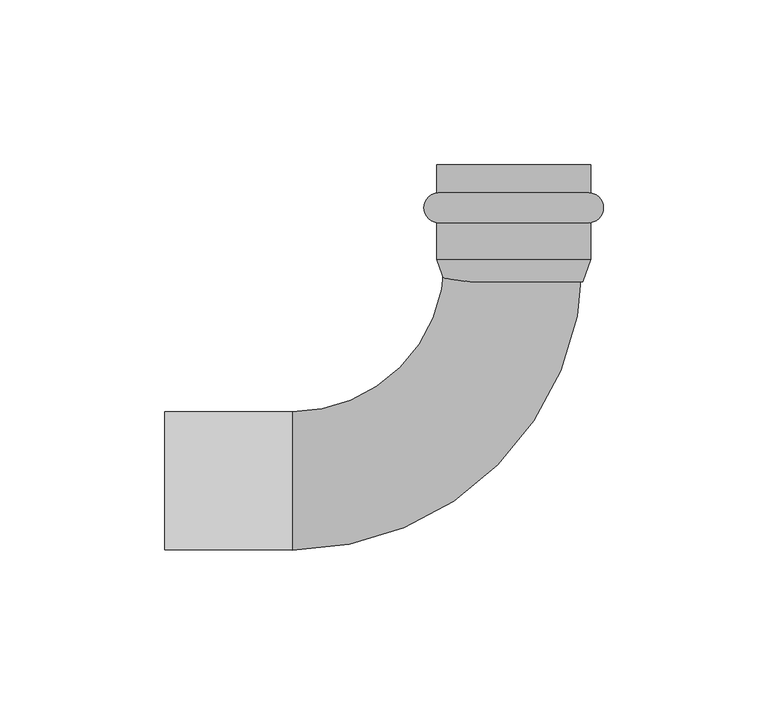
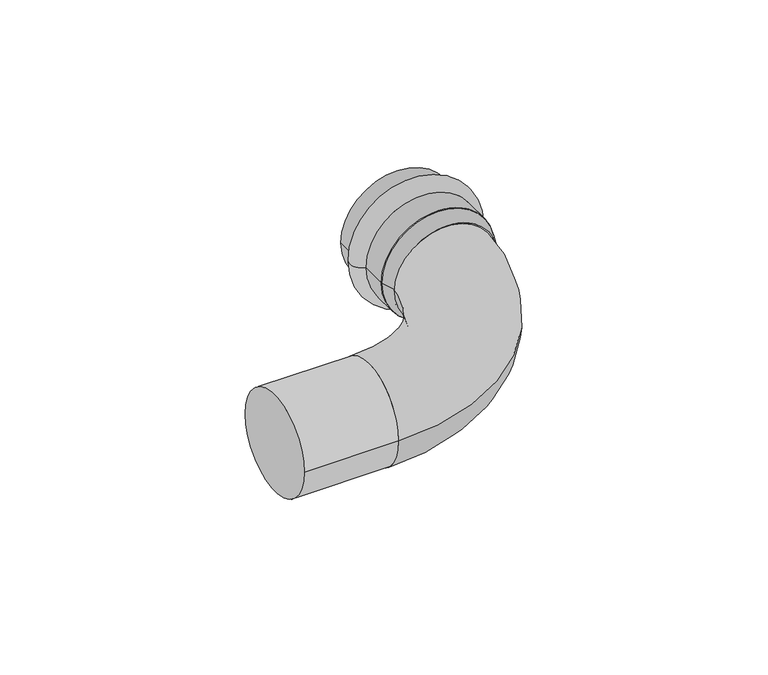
"""IFC4 building model written with IfcOpenShell, lengths in millimetres: pipe fitting geometry, VALTEC_VTi.950.I_Угольник 90° (раструб–труба) нержавеющая сталь : VTi.950.I."""

from ifc_helpers import new_model, si_unit, point, frame, origin, origin_2d, place, context, project, spatial, polyline, circle_curve, ellipse_curve, trimmed, segment, composite_curve, outline, extrude, source, transform, mapped, element, save
from ifc_brep_helpers import plane_surface, cylinder_surface, revolved_surface, advanced_brep


def pipe_fitting_56f49bfb(model_context):
    return source(origin(), model_context, "Body", "SolidModel", [
        advanced_brep(
        [(-23.35, 87.4464272, 0.0), (23.35, 87.4464272, 0.0), (23.35, 78.3535728, 0.0), (-23.35, 78.3535728, 0.0), (-23.35, 96.0, 0.0), (23.35, 96.0, 0.0), (-21.0, 96.0, 0.0), (21.0, 96.0, 0.0), (-21.0, 67.2, 0.0), (21.0, 67.2, 0.0), (-23.35, 67.2, 0.0), (23.35, 67.2, 0.0)],
        [
            (0, 1, circle_curve(frame((0.0, 87.4464272, 0.0), z_axis=(0.0, -1.0, 0.0), x_axis=(1.0, 0.0, 0.0)), 23.35)),
            (1, 2, circle_curve(frame((22.65, 82.9, 0.0), z_axis=(0.0, 0.0, -1.0), x_axis=(0.0, -1.0, 0.0)), 4.6)),
            (2, 3, circle_curve(frame((0.0, 78.3535728, 0.0), z_axis=(0.0, 1.0, 0.0), x_axis=(1.0, 0.0, 0.0)), 23.35)),
            (3, 0, circle_curve(frame((-22.65, 82.9, 0.0), z_axis=(0.0, 0.0, -1.0), x_axis=(0.0, -1.0, 0.0)), 4.6)),
            (1, 0, circle_curve(frame((0.0, 87.4464272, 0.0), z_axis=(0.0, -1.0, 0.0), x_axis=(1.0, 0.0, 0.0)), 23.35)),
            (3, 2, circle_curve(frame((0.0, 78.3535728, 0.0), z_axis=(0.0, 1.0, 0.0), x_axis=(1.0, 0.0, 0.0)), 23.35)),
            (4, 5, circle_curve(frame((0.0, 96.0, 0.0), z_axis=(0.0, -1.0, 0.0), x_axis=(1.0, 0.0, 0.0)), 23.35)),
            (5, 1),
            (0, 4),
            (5, 4, circle_curve(frame((0.0, 96.0, 0.0), z_axis=(0.0, -1.0, 0.0), x_axis=(1.0, 0.0, 0.0)), 23.35)),
            (6, 7, circle_curve(frame((0.0, 96.0, 0.0), z_axis=(0.0, -1.0, 0.0), x_axis=(1.0, 0.0, 0.0)), 21.0)),
            (7, 5),
            (4, 6),
            (7, 6, circle_curve(frame((0.0, 96.0, 0.0), z_axis=(0.0, -1.0, 0.0), x_axis=(1.0, 0.0, 0.0)), 21.0)),
            (8, 9, circle_curve(frame((0.0, 67.2, 0.0), z_axis=(0.0, -1.0, 0.0), x_axis=(1.0, 0.0, 0.0)), 21.0)),
            (9, 7),
            (6, 8),
            (9, 8, circle_curve(frame((0.0, 67.2, 0.0), z_axis=(0.0, -1.0, 0.0), x_axis=(1.0, 0.0, 0.0)), 21.0)),
            (10, 11, circle_curve(frame((0.0, 67.2, 0.0), z_axis=(0.0, -1.0, 0.0), x_axis=(1.0, 0.0, 0.0)), 23.35)),
            (11, 9),
            (8, 10),
            (11, 10, circle_curve(frame((0.0, 67.2, 0.0), z_axis=(0.0, -1.0, 0.0), x_axis=(1.0, 0.0, 0.0)), 23.35)),
            (2, 11),
            (10, 3),
        ],
        [
            revolved_surface(trimmed(ellipse_curve(frame((22.65, 82.9, 0.0), z_axis=(0.0, 0.0, 1.0), x_axis=(0.0, -1.0, 0.0)), 4.6, 4.6), [point((23.35, 78.3535728, 0.0))], [point((23.35, 87.4464272, 0.0))], True, "CARTESIAN"), (0.0, 99.5364426, 0.0), (0.0, 1.0, 0.0)),
            cylinder_surface(frame((0.0, 99.5364426, 0.0), z_axis=(0.0, 1.0, 0.0), x_axis=(1.0, 0.0, 0.0)), 23.35),
            plane_surface(frame((0.0, 96.0, 0.0), z_axis=(0.0, 1.0, 0.0), x_axis=(1.0, 0.0, 0.0))),
            revolved_surface(polyline([(21.0, 96.0, 0.0), (21.0, 67.2, 0.0)]), (0.0, 99.5364426, 0.0), (0.0, 1.0, 0.0)),
            plane_surface(frame((0.0, 67.2, 0.0), z_axis=(0.0, -1.0, 0.0), x_axis=(1.0, 0.0, 0.0))),
        ],
        [
            (0, [[1, 2, 3, 4]]),
            (0, [[5, -4, 6, -2]]),
            (1, [[7, 8, -1, 9]]),
            (1, [[10, -9, -5, -8]]),
            (2, [[11, 12, -7, 13]]),
            (2, [[14, -13, -10, -12]]),
            (3, [[15, 16, -11, 17]]),
            (3, [[18, -17, -14, -16]]),
            (4, [[19, 20, -15, 21]]),
            (4, [[22, -21, -18, -20]]),
            (1, [[-3, 23, -19, 24]]),
            (1, [[-6, -24, -22, -23]]),
        ],
    ),
        extrude(outline(composite_curve([segment(trimmed(circle_curve(origin_2d(), 21.0), [point((-21.0, 0.0))], [point((21.0, 0.0))], False, "CARTESIAN"), True, "CONTINUOUS"), segment(trimmed(circle_curve(origin_2d(), 21.0), [point((21.0, 0.0))], [point((-21.0, 0.0))], False, "CARTESIAN"), True, "CONTINUOUS")], self_intersect=False)), frame((-106.0, 0.0, 0.0), z_axis=(1.0, 0.0, 0.0), x_axis=(0.0, 1.0, 0.0)), (0.0, 0.0, 1.0), 38.8),
        advanced_brep(
        [(-23.35, 67.2, 0.0), (23.35, 67.2, 0.0), (-21.0, 60.48, 0.0), (21.0, 60.48, 0.0)],
        [
            (0, 1, circle_curve(frame((0.0, 67.2, 0.0), z_axis=(0.0, 1.0, 0.0), x_axis=(-1.0, 0.0, 0.0)), 23.35)),
            (1, 0, circle_curve(frame((0.0, 67.2, 0.0), z_axis=(0.0, 1.0, 0.0), x_axis=(1.0, 0.0, 0.0)), 23.35)),
            (2, 3, circle_curve(frame((0.0, 60.48, 0.0), z_axis=(0.0, -1.0, 0.0), x_axis=(1.0, 0.0, 0.0)), 21.0)),
            (3, 2, circle_curve(frame((0.0, 60.48, 0.0), z_axis=(0.0, -1.0, 0.0), x_axis=(-1.0, 0.0, 0.0)), 21.0)),
            (2, 0),
            (1, 3),
        ],
        [
            plane_surface(frame((0.0, 67.2, 0.0), z_axis=(0.0, 1.0, 0.0), x_axis=(0.0, 0.0, -1.0))),
            plane_surface(frame((0.0, 60.48, 0.0), z_axis=(0.0, -1.0, 0.0), x_axis=(0.0, 0.0, -1.0))),
            revolved_surface(polyline([(-20.99999999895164, 60.48, 0.0), (-23.35, 67.2, 0.0)]), (0.0, 0.4289362, 0.0), (0.0, 1.0, 0.0)),
            revolved_surface(polyline([(20.99999999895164, 60.48, 0.0), (23.35, 67.2, 0.0)]), (0.0, 0.4289362, 0.0), (0.0, 1.0, 0.0)),
        ],
        [
            (0, [[1, 2]]),
            (1, [[3, 4]]),
            (2, [[-3, 5, -2, 6]]),
            (3, [[-4, -6, -1, -5]]),
        ],
    ),
        advanced_brep(
        [(-67.2, -21.0551605, 0.0), (-67.2, 20.9448395, 0.0), (21.0551605, 67.2, 0.0), (-20.9448395, 67.2, 0.0)],
        [
            (0, 1, circle_curve(frame((-67.2, -0.0551605, 0.0), z_axis=(-1.0, 0.0, 0.0), x_axis=(0.0, 1.0, 0.0)), 21.0)),
            (1, 0, circle_curve(frame((-67.2, -0.0551605, 0.0), z_axis=(-1.0, 0.0, 0.0), x_axis=(0.0, 1.0, 0.0)), 21.0)),
            (2, 3, circle_curve(frame((0.0551605, 67.2, 0.0), z_axis=(0.0, 1.0, 0.0), x_axis=(-1.0, 0.0, 0.0)), 21.0)),
            (3, 2, circle_curve(frame((0.0551605, 67.2, 0.0), z_axis=(0.0, 1.0, 0.0), x_axis=(-1.0, 0.0, 0.0)), 21.0)),
            (3, 1, circle_curve(frame((-67.2, 67.2, 0.0), z_axis=(0.0, 0.0, -1.0), x_axis=(0.0, -1.0, 0.0)), 46.2551605)),
            (0, 2, circle_curve(frame((-67.2, 67.2, 0.0), z_axis=(0.0, 0.0, 1.0), x_axis=(0.0, -1.0, 0.0)), 88.2551605)),
        ],
        [
            plane_surface(frame((-67.2, 0.0, 0.0), z_axis=(-1.0, 0.0, 0.0), x_axis=(0.0, 0.0, 1.0))),
            plane_surface(frame((0.0, 67.2, 0.0), z_axis=(0.0, 1.0, 0.0), x_axis=(0.0, 0.0, 1.0))),
            revolved_surface(trimmed(ellipse_curve(frame((-67.2, -0.0551605, 0.0), z_axis=(-1.0, 0.0, 0.0), x_axis=(0.0, 1.0, 0.0)), 21.0, 21.0), [point((-67.2, -21.0551605, 0.0))], [point((-67.2, 20.9448395, 0.0))], True, "CARTESIAN"), (-67.2, 67.2, 0.0), (0.0, 0.0, 1.0)),
            revolved_surface(trimmed(ellipse_curve(frame((-67.2, -0.0551605, 0.0), z_axis=(-1.0, 0.0, 0.0), x_axis=(0.0, 1.0, 0.0)), 21.0, 21.0), [point((-67.2, 20.9448395, 0.0))], [point((-67.2, -21.0551605, 0.0))], True, "CARTESIAN"), (-67.2, 67.2, 0.0), (0.0, 0.0, 1.0)),
        ],
        [
            (0, [[1, 2]]),
            (1, [[3, 4]]),
            (2, [[5, -1, 6, -4]]),
            (3, [[-6, -2, -5, -3]]),
        ],
    ),
    ])


if __name__ == "__main__":
    model = new_model("IFC4")
    model_context = context("Model", 3, world=origin())
    ifc_project = project(units=[si_unit("LENGTHUNIT", "METRE", prefix="MILLI")], contexts=[model_context])
    site = spatial("IfcSite", under=ifc_project)
    building = spatial("IfcBuilding", under=site)
    placement = place(None, origin())
    pipe_fitting_shape = pipe_fitting_56f49bfb(model_context)
    element("IfcPipeFitting", 1, ObjectType="VALTEC_VTi.950.I_Угольник 90° (раструб–труба) нержавеющая сталь : VTi.950.I", at=placement, inside=building, context=model_context, shape_type="MappedRepresentation", body=[
        mapped(pipe_fitting_shape, transform((0.0, 0.0, 0.0), x_axis=(1.0, 0.0, 0.0), y_axis=(0.0, 1.0, 0.0), z_axis=(0.0, 0.0, 1.0))),
    ])
    save(model, "model.ifc")
